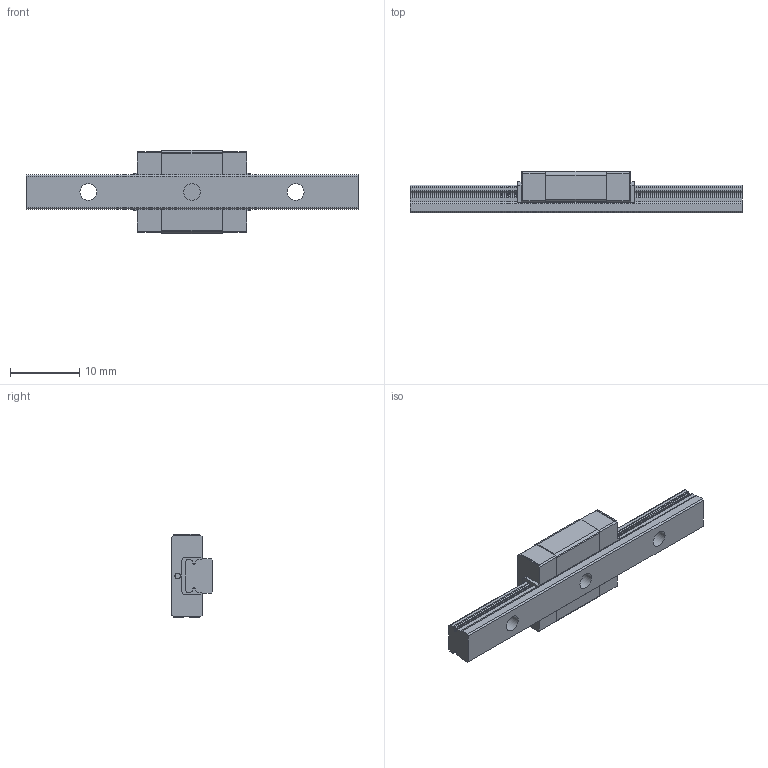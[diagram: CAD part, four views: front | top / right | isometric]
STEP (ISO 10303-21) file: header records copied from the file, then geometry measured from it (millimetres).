
FILE_DESCRIPTION(/* description */ ('STEP AP203'),/* implementation_level */ '2;1');
FILE_NAME(/* name */ 'RSX5MUU-48LM_G9_0_Without grease nipple_15-55_0_0_0_1',/* time_stamp */ '2024-05-21T10:25:01+02:00',/* author */ ('License CC BY-ND 4.0'),/* organization */ ('CADENAS'),/* preprocessor_version */ 'ST-DEVELOPER v19.3',/* originating_system */ 'PARTsolutions',/* authorisation */ ' ');
FILE_SCHEMA (('CONFIG_CONTROL_DESIGN'));
Length unit declared in the file: millimetre
Products named in the file (3): RSX5MUU-48LM_G9_0_Without grease nipple_15-55_0_0_0_1; RSX5M489 Track; RSX5MUU1 Slider
Assembly tree (2 placements, depth 2):
  RSX5MUU-48LM_G9_0_Without grease nipple_15-55_0_0_0_1
    RSX5M489 Track
    RSX5MUU1 Slider
Bounding box: 48 x 6 x 12 mm (x, y, z)
Volume: 1471.1 mm3; surface area: 1755.1 mm2
Topology: 2 solids, 2 shells, 174 faces, 483 edges, 318 vertices
Faces by surface type: plane 110, cylinder 60, cone 4
Full cylindrical faces by diameter (mm): 0.8 x2, 1.567 x2, 2.4 x3, 3.5 x3
Entity records: 5548 total; most frequent: CARTESIAN_POINT 958, DIRECTION 947, ORIENTED_EDGE 930, EDGE_CURVE 465, LINE 337, VECTOR 337, VERTEX_POINT 316, AXIS2_PLACEMENT_3D 305
